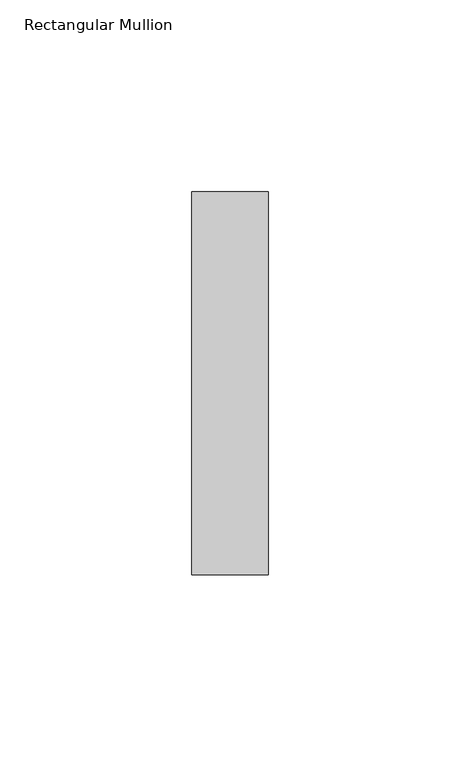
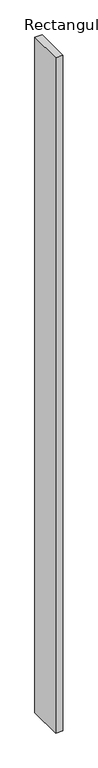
"""IFC4 building model written with IfcOpenShell, lengths in millimetres: member geometry, Rectangular Mullion : RSen_21_CWM_blade - cubic 100 - 0°_gen_duco projects."""

import ifcopenshell
import ifcopenshell.guid

model = None  # the IFC model being written
_history = None  # IfcOwnerHistory: only IFC2X3 demands one
_inside = {}  # id of a spatial element -> (the spatial element, [elements in it])
_under = {}  # id of a project, library or spatial element -> (it, [spatial elements below it])
_declared = {}  # id of a project -> (the project, [libraries it declares])
_typed = {}  # id of a type object -> (the type object, [elements of that type])
_made_of = {}  # id of a material, layer set ... -> (it, [elements and type objects made of it])


def new_model(schema):
    """Start an empty IFC model of exactly this schema.

    Asked for "IFC4X3", IfcOpenShell would pick the latest addendum, in which some entities
    have other attributes; the version numbers below select the first issue.
    IFC2X3 requires an IfcOwnerHistory on every rooted entity: one is made here for all.
    """
    global model, _history
    if schema == "IFC4X3":
        model = ifcopenshell.file(schema_version=(4, 3, 0, 0))
    else:
        model = ifcopenshell.file(schema=schema)
    _inside.clear()
    _under.clear()
    _declared.clear()
    _typed.clear()
    _made_of.clear()
    _history = None
    if model.schema == "IFC2X3":
        org = make("IfcOrganization", Name="unknown")
        user = make(
            "IfcPersonAndOrganization",
            ThePerson=make("IfcPerson", FamilyName="unknown"),
            TheOrganization=org,
        )
        app = make(
            "IfcApplication",
            ApplicationDeveloper=org,
            Version="unknown",
            ApplicationFullName="unknown",
            ApplicationIdentifier="unknown",
        )
        _history = make(
            "IfcOwnerHistory",
            OwningUser=user,
            OwningApplication=app,
            ChangeAction="ADDED",
            CreationDate=0,
        )
    return model


def make(cls, **values):
    """One entity of the class cls with the attributes given. An attribute that is None is left unset."""
    return model.create_entity(
        cls, **{name: value for name, value in values.items() if value is not None}
    )


def rooted(cls, **values):
    """An entity with a GlobalId (a new one), such as an element, a storey or a relation."""
    return make(cls, GlobalId=ifcopenshell.guid.new(), OwnerHistory=_history, **values)


def si_unit(unit_type, name, prefix=None):
    """IfcSIUnit, for example si_unit("LENGTHUNIT", "METRE", prefix="MILLI")."""
    return make("IfcSIUnit", UnitType=unit_type, Prefix=prefix, Name=name)


def assignment(units):
    """IfcUnitAssignment: the units of a project."""
    return None if units is None else make("IfcUnitAssignment", Units=units)


def point(xyz):
    """IfcCartesianPoint."""
    return None if xyz is None else make("IfcCartesianPoint", Coordinates=xyz)


def direction(xyz):
    """IfcDirection."""
    return None if xyz is None else make("IfcDirection", DirectionRatios=xyz)


def frame(location, z_axis=None, x_axis=None):
    """IfcAxis2Placement3D, a coordinate frame: its origin and axes. An axis left out is left unset."""
    return make(
        "IfcAxis2Placement3D",
        Location=point(location),
        Axis=direction(z_axis),
        RefDirection=direction(x_axis),
    )


def origin():
    """The frame at (0, 0, 0) with its axes left unset."""
    return frame((0.0, 0.0, 0.0))


def place(relative_to, where):
    """IfcLocalPlacement: puts the frame where relative to a parent placement (None: the world)."""
    return make(
        "IfcLocalPlacement", PlacementRelTo=relative_to, RelativePlacement=where
    )


def context(
    kind, dimensions, precision=None, world=None, true_north=None, identifier=None
):
    """IfcGeometricRepresentationContext, for example the 3D "Model" context."""
    return make(
        "IfcGeometricRepresentationContext",
        ContextIdentifier=identifier,
        ContextType=kind,
        CoordinateSpaceDimension=dimensions,
        Precision=precision,
        WorldCoordinateSystem=world,
        TrueNorth=true_north,
    )


def project(units=None, contexts=None):
    """IfcProject with its units and contexts."""
    return rooted(
        "IfcProject",
        Name="project",
        RepresentationContexts=contexts,
        UnitsInContext=assignment(units),
    )


def spatial(cls, under=None, at=None, **own):
    """A site, building, storey or space (cls), placed at a placement, below another one or the project."""
    s = rooted(cls, ObjectPlacement=at, **own)
    if under is not None:
        _under.setdefault(under.id(), (under, []))[1].append(s)
    return s


def polyline(points):
    """IfcPolyline through the points."""
    return make("IfcPolyline", Points=[point(p) for p in points])


def outline(outer, holes=None, kind="AREA"):
    """IfcArbitraryClosedProfileDef: a profile drawn as a closed curve; with holes, ...WithVoids."""
    if holes is None:
        return make("IfcArbitraryClosedProfileDef", ProfileType=kind, OuterCurve=outer)
    return make(
        "IfcArbitraryProfileDefWithVoids",
        ProfileType=kind,
        OuterCurve=outer,
        InnerCurves=holes,
    )


def extrude(swept, where, along, depth):
    """IfcExtrudedAreaSolid: the profile swept, set in the frame where, extruded along a direction by depth."""
    return make(
        "IfcExtrudedAreaSolid",
        SweptArea=swept,
        Position=where,
        ExtrudedDirection=direction(along),
        Depth=depth,
    )


def shape(context_of_items, identifier, shape_type, items):
    """IfcShapeRepresentation: the items that make up one representation, for example the "Body"."""
    return make(
        "IfcShapeRepresentation",
        ContextOfItems=context_of_items,
        RepresentationIdentifier=identifier,
        RepresentationType=shape_type,
        Items=items,
    )


def source(mapping_origin, context_of_items, identifier, shape_type, items):
    """IfcRepresentationMap: a shape defined once, which mapped items show again and again."""
    return make(
        "IfcRepresentationMap",
        MappingOrigin=mapping_origin,
        MappedRepresentation=shape(context_of_items, identifier, shape_type, items),
    )


def transform(
    local_origin,
    x_axis=None,
    y_axis=None,
    z_axis=None,
    scale=None,
    scale2=None,
    scale3=None,
    uniform=True,
):
    """IfcCartesianTransformationOperator3D, or its non-uniform kind. x_axis, y_axis, z_axis: its Axis1, 2, 3."""
    if uniform:
        return make(
            "IfcCartesianTransformationOperator3D",
            Axis1=direction(x_axis),
            Axis2=direction(y_axis),
            LocalOrigin=point(local_origin),
            Scale=scale,
            Axis3=direction(z_axis),
        )
    return make(
        "IfcCartesianTransformationOperator3DnonUniform",
        Axis1=direction(x_axis),
        Axis2=direction(y_axis),
        LocalOrigin=point(local_origin),
        Scale=scale,
        Axis3=direction(z_axis),
        Scale2=scale2,
        Scale3=scale3,
    )


def mapped(mapping_source, mapping_target):
    """IfcMappedItem: shows the shape of a source again, moved by a transform."""
    return make(
        "IfcMappedItem", MappingSource=mapping_source, MappingTarget=mapping_target
    )


def made_of(thing, what):
    """Note that an element or type object is made of a material, layer set ...; save() writes the relation."""
    if what is not None:
        _made_of.setdefault(what.id(), (what, []))[1].append(thing)
    return thing


def element(
    cls,
    number,
    at=None,
    inside=None,
    cuts=None,
    type_object=None,
    material=None,
    context=None,
    identifier="Body",
    shape_type=None,
    held_by="IfcProductDefinitionShape",
    body=None,
    shapes=None,
    **own,
):
    """One element of the class cls, such as IfcWall. Its Tag is "e" and its number.

    at: its placement. inside: the storey or other place that contains it. cuts: it is an
    opening in that element (IfcRelVoidsElement). A single representation is given by context,
    identifier, shape_type and body (its items); several are given by shapes. held_by: the class
    of the entity that holds the representations. save() writes the other relations.
    """
    e = rooted(cls, Tag="e%d" % number, ObjectPlacement=at, **own)
    if body is not None:
        shapes = [shape(context, identifier, shape_type, body)]
    if shapes is not None:
        e.Representation = make(held_by, Representations=shapes)
    if inside is not None:
        _inside.setdefault(inside.id(), (inside, []))[1].append(e)
    if cuts is not None:
        rooted(
            "IfcRelVoidsElement", RelatingBuildingElement=cuts, RelatedOpeningElement=e
        )
    if type_object is not None:
        _typed.setdefault(type_object.id(), (type_object, []))[1].append(e)
    return made_of(e, material)


def aggregate(whole, parts):
    """IfcRelAggregates: a whole, such as a stair, and the parts it consists of."""
    return rooted("IfcRelAggregates", RelatingObject=whole, RelatedObjects=parts)


def save(model, path):
    """Write the relations noted so far, then the file.

    IfcRelAggregates (storeys below a building ...), IfcRelContainedInSpatialStructure (elements
    in a storey), IfcRelDefinesByType, IfcRelAssociatesMaterial and IfcRelDeclares: one each for
    every whole, place, type object, material and project.
    """
    for whole, parts in _under.values():
        aggregate(whole, parts)
    for where, things in _inside.values():
        rooted(
            "IfcRelContainedInSpatialStructure",
            RelatedElements=things,
            RelatingStructure=where,
        )
    for kind, things in _typed.values():
        rooted("IfcRelDefinesByType", RelatedObjects=things, RelatingType=kind)
    for what, things in _made_of.values():
        rooted("IfcRelAssociatesMaterial", RelatedObjects=things, RelatingMaterial=what)
    for by, libraries in _declared.values():
        rooted("IfcRelDeclares", RelatingContext=by, RelatedDefinitions=libraries)
    model.write(path)


def rectangular_mullion_30cdfca6(model_context):
    return source(origin(), model_context, "Body", "SweptSolid", [
        extrude(outline(polyline([(-10.0, 7.0), (-10.0, 107.0), (10.0, 107.0), (10.0, 7.0), (-10.0, 7.0)])), frame((0.0, 0.0, -2000.0), z_axis=(0.0, 0.0, 1.0), x_axis=(1.0, 0.0, 0.0)), (0.0, 0.0, 1.0), 2000.0),
    ])


if __name__ == "__main__":
    model = new_model("IFC4")
    model_context = context("Model", 3, world=origin())
    ifc_project = project(units=[si_unit("LENGTHUNIT", "METRE", prefix="MILLI")], contexts=[model_context])
    site = spatial("IfcSite", under=ifc_project)
    building = spatial("IfcBuilding", under=site)
    placement = place(None, origin())
    rectangular_mullion_shape = rectangular_mullion_30cdfca6(model_context)
    element("IfcMember", 1, ObjectType="Rectangular Mullion : RSen_21_CWM_blade - cubic 100 - 0°_gen_duco projects", at=placement, inside=building, context=model_context, shape_type="MappedRepresentation", body=[
        mapped(rectangular_mullion_shape, transform((0.0, 0.0, 0.0), x_axis=(1.0, 0.0, 0.0), y_axis=(0.0, 1.0, 0.0), z_axis=(0.0, 0.0, 1.0))),
    ])
    save(model, "model.ifc")
